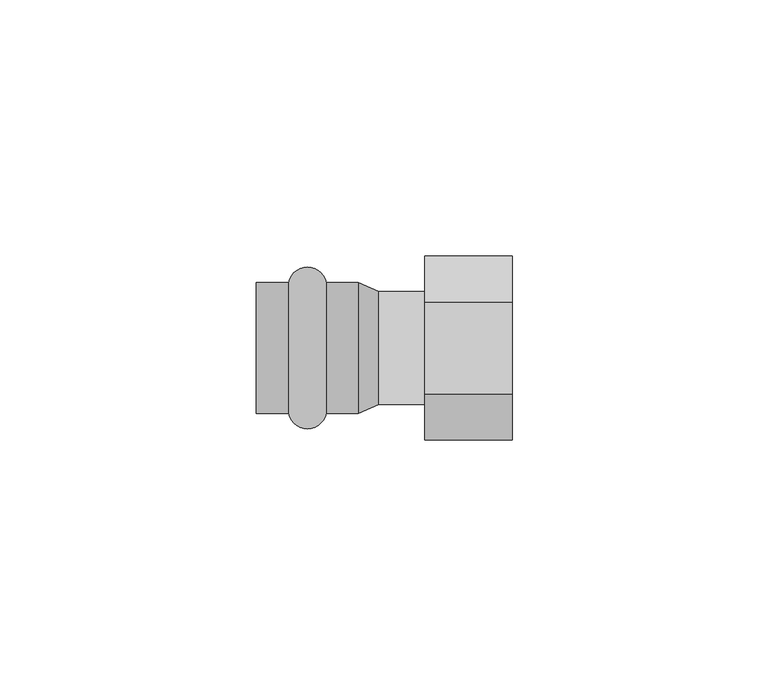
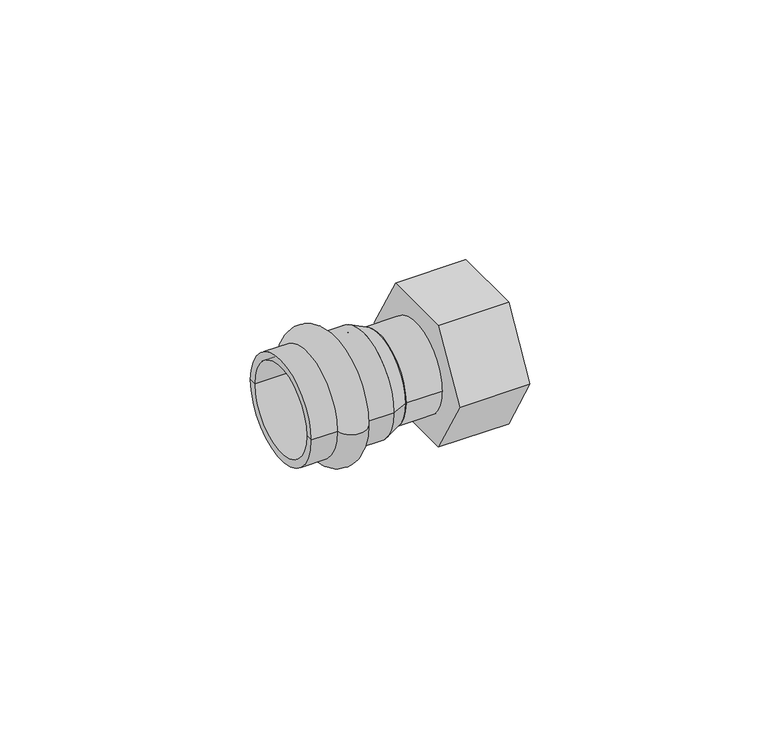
"""IFC4 building model written with IfcOpenShell, lengths in millimetres: pipe fitting geometry, VALTEC_VTi.902.I_Соединитель прямой с переходом на внутреннюю резьбу_Нержавеющая сталь : VTi.902.I."""

import ifcopenshell
import ifcopenshell.guid

model = None  # the IFC model being written
_history = None  # IfcOwnerHistory: only IFC2X3 demands one
_inside = {}  # id of a spatial element -> (the spatial element, [elements in it])
_under = {}  # id of a project, library or spatial element -> (it, [spatial elements below it])
_declared = {}  # id of a project -> (the project, [libraries it declares])
_typed = {}  # id of a type object -> (the type object, [elements of that type])
_made_of = {}  # id of a material, layer set ... -> (it, [elements and type objects made of it])


def new_model(schema):
    """Start an empty IFC model of exactly this schema.

    Asked for "IFC4X3", IfcOpenShell would pick the latest addendum, in which some entities
    have other attributes; the version numbers below select the first issue.
    IFC2X3 requires an IfcOwnerHistory on every rooted entity: one is made here for all.
    """
    global model, _history
    if schema == "IFC4X3":
        model = ifcopenshell.file(schema_version=(4, 3, 0, 0))
    else:
        model = ifcopenshell.file(schema=schema)
    _inside.clear()
    _under.clear()
    _declared.clear()
    _typed.clear()
    _made_of.clear()
    _history = None
    if model.schema == "IFC2X3":
        org = make("IfcOrganization", Name="unknown")
        user = make(
            "IfcPersonAndOrganization",
            ThePerson=make("IfcPerson", FamilyName="unknown"),
            TheOrganization=org,
        )
        app = make(
            "IfcApplication",
            ApplicationDeveloper=org,
            Version="unknown",
            ApplicationFullName="unknown",
            ApplicationIdentifier="unknown",
        )
        _history = make(
            "IfcOwnerHistory",
            OwningUser=user,
            OwningApplication=app,
            ChangeAction="ADDED",
            CreationDate=0,
        )
    return model


def make(cls, **values):
    """One entity of the class cls with the attributes given. An attribute that is None is left unset."""
    return model.create_entity(
        cls, **{name: value for name, value in values.items() if value is not None}
    )


def rooted(cls, **values):
    """An entity with a GlobalId (a new one), such as an element, a storey or a relation."""
    return make(cls, GlobalId=ifcopenshell.guid.new(), OwnerHistory=_history, **values)


def si_unit(unit_type, name, prefix=None):
    """IfcSIUnit, for example si_unit("LENGTHUNIT", "METRE", prefix="MILLI")."""
    return make("IfcSIUnit", UnitType=unit_type, Prefix=prefix, Name=name)


def assignment(units):
    """IfcUnitAssignment: the units of a project."""
    return None if units is None else make("IfcUnitAssignment", Units=units)


def point(xyz):
    """IfcCartesianPoint."""
    return None if xyz is None else make("IfcCartesianPoint", Coordinates=xyz)


def direction(xyz):
    """IfcDirection."""
    return None if xyz is None else make("IfcDirection", DirectionRatios=xyz)


def frame(location, z_axis=None, x_axis=None):
    """IfcAxis2Placement3D, a coordinate frame: its origin and axes. An axis left out is left unset."""
    return make(
        "IfcAxis2Placement3D",
        Location=point(location),
        Axis=direction(z_axis),
        RefDirection=direction(x_axis),
    )


def frame_2d(location, x_axis=None):
    """IfcAxis2Placement2D, a coordinate frame in the plane: its origin and x axis."""
    return make(
        "IfcAxis2Placement2D", Location=point(location), RefDirection=direction(x_axis)
    )


def origin():
    """The frame at (0, 0, 0) with its axes left unset."""
    return frame((0.0, 0.0, 0.0))


def origin_2d():
    """The frame at (0, 0) in the plane with its x axis left unset."""
    return frame_2d((0.0, 0.0))


def place(relative_to, where):
    """IfcLocalPlacement: puts the frame where relative to a parent placement (None: the world)."""
    return make(
        "IfcLocalPlacement", PlacementRelTo=relative_to, RelativePlacement=where
    )


def context(
    kind, dimensions, precision=None, world=None, true_north=None, identifier=None
):
    """IfcGeometricRepresentationContext, for example the 3D "Model" context."""
    return make(
        "IfcGeometricRepresentationContext",
        ContextIdentifier=identifier,
        ContextType=kind,
        CoordinateSpaceDimension=dimensions,
        Precision=precision,
        WorldCoordinateSystem=world,
        TrueNorth=true_north,
    )


def project(units=None, contexts=None):
    """IfcProject with its units and contexts."""
    return rooted(
        "IfcProject",
        Name="project",
        RepresentationContexts=contexts,
        UnitsInContext=assignment(units),
    )


def spatial(cls, under=None, at=None, **own):
    """A site, building, storey or space (cls), placed at a placement, below another one or the project."""
    s = rooted(cls, ObjectPlacement=at, **own)
    if under is not None:
        _under.setdefault(under.id(), (under, []))[1].append(s)
    return s


def polyline(points):
    """IfcPolyline through the points."""
    return make("IfcPolyline", Points=[point(p) for p in points])


def circle_curve(where, radius):
    """IfcCircle in the frame where."""
    return make("IfcCircle", Position=where, Radius=radius)


def ellipse_curve(where, semi_axis1, semi_axis2):
    """IfcEllipse in the frame where."""
    return make(
        "IfcEllipse", Position=where, SemiAxis1=semi_axis1, SemiAxis2=semi_axis2
    )


def trimmed(basis, trim1, trim2, sense, master):
    """IfcTrimmedCurve: the piece of a basis curve between two trims."""
    return make(
        "IfcTrimmedCurve",
        BasisCurve=basis,
        Trim1=trim1,
        Trim2=trim2,
        SenseAgreement=sense,
        MasterRepresentation=master,
    )


def segment(curve, same_sense, transition):
    """IfcCompositeCurveSegment."""
    return make(
        "IfcCompositeCurveSegment",
        Transition=transition,
        SameSense=same_sense,
        ParentCurve=curve,
    )


def composite_curve(segments, self_intersect=None):
    """IfcCompositeCurve: segments joined end to end."""
    return make("IfcCompositeCurve", Segments=segments, SelfIntersect=self_intersect)


def outline(outer, holes=None, kind="AREA"):
    """IfcArbitraryClosedProfileDef: a profile drawn as a closed curve; with holes, ...WithVoids."""
    if holes is None:
        return make("IfcArbitraryClosedProfileDef", ProfileType=kind, OuterCurve=outer)
    return make(
        "IfcArbitraryProfileDefWithVoids",
        ProfileType=kind,
        OuterCurve=outer,
        InnerCurves=holes,
    )


def extrude(swept, where, along, depth):
    """IfcExtrudedAreaSolid: the profile swept, set in the frame where, extruded along a direction by depth."""
    return make(
        "IfcExtrudedAreaSolid",
        SweptArea=swept,
        Position=where,
        ExtrudedDirection=direction(along),
        Depth=depth,
    )


def shape(context_of_items, identifier, shape_type, items):
    """IfcShapeRepresentation: the items that make up one representation, for example the "Body"."""
    return make(
        "IfcShapeRepresentation",
        ContextOfItems=context_of_items,
        RepresentationIdentifier=identifier,
        RepresentationType=shape_type,
        Items=items,
    )


def source(mapping_origin, context_of_items, identifier, shape_type, items):
    """IfcRepresentationMap: a shape defined once, which mapped items show again and again."""
    return make(
        "IfcRepresentationMap",
        MappingOrigin=mapping_origin,
        MappedRepresentation=shape(context_of_items, identifier, shape_type, items),
    )


def transform(
    local_origin,
    x_axis=None,
    y_axis=None,
    z_axis=None,
    scale=None,
    scale2=None,
    scale3=None,
    uniform=True,
):
    """IfcCartesianTransformationOperator3D, or its non-uniform kind. x_axis, y_axis, z_axis: its Axis1, 2, 3."""
    if uniform:
        return make(
            "IfcCartesianTransformationOperator3D",
            Axis1=direction(x_axis),
            Axis2=direction(y_axis),
            LocalOrigin=point(local_origin),
            Scale=scale,
            Axis3=direction(z_axis),
        )
    return make(
        "IfcCartesianTransformationOperator3DnonUniform",
        Axis1=direction(x_axis),
        Axis2=direction(y_axis),
        LocalOrigin=point(local_origin),
        Scale=scale,
        Axis3=direction(z_axis),
        Scale2=scale2,
        Scale3=scale3,
    )


def mapped(mapping_source, mapping_target):
    """IfcMappedItem: shows the shape of a source again, moved by a transform."""
    return make(
        "IfcMappedItem", MappingSource=mapping_source, MappingTarget=mapping_target
    )


def made_of(thing, what):
    """Note that an element or type object is made of a material, layer set ...; save() writes the relation."""
    if what is not None:
        _made_of.setdefault(what.id(), (what, []))[1].append(thing)
    return thing


def element(
    cls,
    number,
    at=None,
    inside=None,
    cuts=None,
    type_object=None,
    material=None,
    context=None,
    identifier="Body",
    shape_type=None,
    held_by="IfcProductDefinitionShape",
    body=None,
    shapes=None,
    **own,
):
    """One element of the class cls, such as IfcWall. Its Tag is "e" and its number.

    at: its placement. inside: the storey or other place that contains it. cuts: it is an
    opening in that element (IfcRelVoidsElement). A single representation is given by context,
    identifier, shape_type and body (its items); several are given by shapes. held_by: the class
    of the entity that holds the representations. save() writes the other relations.
    """
    e = rooted(cls, Tag="e%d" % number, ObjectPlacement=at, **own)
    if body is not None:
        shapes = [shape(context, identifier, shape_type, body)]
    if shapes is not None:
        e.Representation = make(held_by, Representations=shapes)
    if inside is not None:
        _inside.setdefault(inside.id(), (inside, []))[1].append(e)
    if cuts is not None:
        rooted(
            "IfcRelVoidsElement", RelatingBuildingElement=cuts, RelatedOpeningElement=e
        )
    if type_object is not None:
        _typed.setdefault(type_object.id(), (type_object, []))[1].append(e)
    return made_of(e, material)


def aggregate(whole, parts):
    """IfcRelAggregates: a whole, such as a stair, and the parts it consists of."""
    return rooted("IfcRelAggregates", RelatingObject=whole, RelatedObjects=parts)


def save(model, path):
    """Write the relations noted so far, then the file.

    IfcRelAggregates (storeys below a building ...), IfcRelContainedInSpatialStructure (elements
    in a storey), IfcRelDefinesByType, IfcRelAssociatesMaterial and IfcRelDeclares: one each for
    every whole, place, type object, material and project.
    """
    for whole, parts in _under.values():
        aggregate(whole, parts)
    for where, things in _inside.values():
        rooted(
            "IfcRelContainedInSpatialStructure",
            RelatedElements=things,
            RelatingStructure=where,
        )
    for kind, things in _typed.values():
        rooted("IfcRelDefinesByType", RelatedObjects=things, RelatingType=kind)
    for what, things in _made_of.values():
        rooted("IfcRelAssociatesMaterial", RelatedObjects=things, RelatingMaterial=what)
    for by, libraries in _declared.values():
        rooted("IfcRelDeclares", RelatingContext=by, RelatedDefinitions=libraries)
    model.write(path)


def plane_surface(at):
    """IfcPlane: the flat surface through the origin of the frame at, square to its z axis."""
    return make("IfcPlane", Position=at)


def cylinder_surface(at, radius):
    """IfcCylindricalSurface: all points at the distance radius from the z axis of the frame at."""
    return make("IfcCylindricalSurface", Position=at, Radius=radius)


def revolved_surface(curve, axis_point, axis_direction):
    """IfcSurfaceOfRevolution: the curve turned about the line through axis_point along axis_direction."""
    return make(
        "IfcSurfaceOfRevolution",
        SweptCurve=make("IfcArbitraryOpenProfileDef", ProfileType="CURVE", Curve=curve),
        AxisPosition=make("IfcAxis1Placement", Location=point(axis_point), Axis=direction(axis_direction)),
    )


def advanced_brep(points, edges, surfaces, faces):
    """IfcAdvancedBrep: a solid bounded by faces that lie on surfaces and meet in shared edges.

    An edge is (start, end): straight between two places in points (the first is 0);
    or (start, end, curve); or (start, end, curve, False) where it runs against its curve.
    A face is (place in surfaces, loops), or (place, loops, False) where it looks against
    its surface's normal. A loop lists edges by number (the first is 1), with a minus sign
    where the edge is run from its end to its start. The first loop is the outer one.
    """
    corners = [point(p) for p in points]
    vertices = [make("IfcVertexPoint", VertexGeometry=c) for c in corners]
    made = []
    for start, end, *more in edges:
        made.append(
            make(
                "IfcEdgeCurve",
                EdgeStart=vertices[start],
                EdgeEnd=vertices[end],
                EdgeGeometry=more[0] if more else make("IfcPolyline", Points=[corners[start], corners[end]]),
                SameSense=more[1] if len(more) > 1 else True,
            )
        )
    hull = []
    for where, loops, *sense in faces:
        bounds = []
        for j, loop in enumerate(loops):
            ring = [make("IfcOrientedEdge", EdgeElement=made[abs(k) - 1], Orientation=k > 0) for k in loop]
            bounds.append(
                make(
                    "IfcFaceOuterBound" if j == 0 else "IfcFaceBound",
                    Bound=make("IfcEdgeLoop", EdgeList=ring),
                    Orientation=True,
                )
            )
        hull.append(make("IfcAdvancedFace", Bounds=bounds, FaceSurface=surfaces[where], SameSense=sense[0] if sense else True))
    return make("IfcAdvancedBrep", Outer=make("IfcClosedShell", CfsFaces=hull))


def pipe_fitting_b058bb6a(model_context):
    return source(origin(), model_context, "Body", "SolidModel", [
        advanced_brep(
        [(-35.1242346, -12.8, 0.0), (-35.1242346, 12.8, 0.0), (-27.7757654, 12.8, 0.0), (-27.7757654, -12.8, 0.0), (-41.5, -12.8, 0.0), (-41.5, 12.8, 0.0), (-41.5, -11.0, 0.0), (-41.5, 11.0, 0.0), (-21.5, -11.0, 0.0), (-21.5, 11.0, 0.0), (-21.5, -12.8, 0.0), (-21.5, 12.8, 0.0)],
        [
            (0, 1, circle_curve(frame((-35.1242346, 0.0, 0.0), z_axis=(1.0, 0.0, 0.0), x_axis=(0.0, 1.0, 0.0)), 12.8)),
            (1, 2, circle_curve(frame((-31.45, 12.05, 0.0), z_axis=(0.0, 0.0, -1.0), x_axis=(1.0, 0.0, 0.0)), 3.75)),
            (2, 3, circle_curve(frame((-27.7757654, 0.0, 0.0), z_axis=(-1.0, 0.0, 0.0), x_axis=(0.0, 1.0, 0.0)), 12.8)),
            (3, 0, circle_curve(frame((-31.45, -12.05, 0.0), z_axis=(0.0, 0.0, -1.0), x_axis=(1.0, 0.0, 0.0)), 3.75)),
            (1, 0, circle_curve(frame((-35.1242346, 0.0, 0.0), z_axis=(1.0, 0.0, 0.0), x_axis=(0.0, 1.0, 0.0)), 12.8)),
            (3, 2, circle_curve(frame((-27.7757654, 0.0, 0.0), z_axis=(-1.0, 0.0, 0.0), x_axis=(0.0, 1.0, 0.0)), 12.8)),
            (4, 5, circle_curve(frame((-41.5, 0.0, 0.0), z_axis=(1.0, 0.0, 0.0), x_axis=(0.0, 1.0, 0.0)), 12.8)),
            (5, 1),
            (0, 4),
            (5, 4, circle_curve(frame((-41.5, 0.0, 0.0), z_axis=(1.0, 0.0, 0.0), x_axis=(0.0, 1.0, 0.0)), 12.8)),
            (6, 7, circle_curve(frame((-41.5, 0.0, 0.0), z_axis=(1.0, 0.0, 0.0), x_axis=(0.0, 1.0, 0.0)), 11.0)),
            (7, 5),
            (4, 6),
            (7, 6, circle_curve(frame((-41.5, 0.0, 0.0), z_axis=(1.0, 0.0, 0.0), x_axis=(0.0, 1.0, 0.0)), 11.0)),
            (8, 9, circle_curve(frame((-21.5, 0.0, 0.0), z_axis=(1.0, 0.0, 0.0), x_axis=(0.0, 1.0, 0.0)), 11.0)),
            (9, 7),
            (6, 8),
            (9, 8, circle_curve(frame((-21.5, 0.0, 0.0), z_axis=(1.0, 0.0, 0.0), x_axis=(0.0, 1.0, 0.0)), 11.0)),
            (10, 11, circle_curve(frame((-21.5, 0.0, 0.0), z_axis=(1.0, 0.0, 0.0), x_axis=(0.0, 1.0, 0.0)), 12.8)),
            (11, 9),
            (8, 10),
            (11, 10, circle_curve(frame((-21.5, 0.0, 0.0), z_axis=(1.0, 0.0, 0.0), x_axis=(0.0, 1.0, 0.0)), 12.8)),
            (2, 11),
            (10, 3),
        ],
        [
            revolved_surface(trimmed(ellipse_curve(frame((-31.45, 12.05, 0.0), z_axis=(0.0, 0.0, 1.0), x_axis=(1.0, 0.0, 0.0)), 3.75, 3.75), [point((-27.7757654, 12.8, 0.0))], [point((-35.1242346, 12.8, 0.0))], True, "CARTESIAN"), (-45.0364426, 0.0, 0.0), (-1.0, 0.0, 0.0)),
            cylinder_surface(frame((-45.0364426, 0.0, 0.0), z_axis=(-1.0, 0.0, 0.0), x_axis=(0.0, 1.0, 0.0)), 12.8),
            plane_surface(frame((-41.5, 0.0, 0.0), z_axis=(-1.0, 0.0, 0.0), x_axis=(0.0, 1.0, 0.0))),
            revolved_surface(polyline([(-41.5, 11.0, 0.0), (-21.5, 11.0, 0.0)]), (-45.0364426, 0.0, 0.0), (-1.0, 0.0, 0.0)),
            plane_surface(frame((-21.5, 0.0, 0.0), z_axis=(1.0, 0.0, 0.0), x_axis=(0.0, 1.0, 0.0))),
        ],
        [
            (0, [[1, 2, 3, 4]]),
            (0, [[5, -4, 6, -2]]),
            (1, [[7, 8, -1, 9]]),
            (1, [[10, -9, -5, -8]]),
            (2, [[11, 12, -7, 13]]),
            (2, [[14, -13, -10, -12]]),
            (3, [[15, 16, -11, 17]]),
            (3, [[18, -17, -14, -16]]),
            (4, [[19, 20, -15, 21]]),
            (4, [[22, -21, -18, -20]]),
            (1, [[-3, 23, -19, 24]]),
            (1, [[-6, -24, -22, -23]]),
        ],
    ),
        extrude(outline(polyline([(-18.0017814, 0.0), (-9.0008907, 15.59), (9.0008907, 15.59), (18.0017814, 0.0), (9.0008907, -15.59), (-9.0008907, -15.59), (-18.0017814, 0.0)])), frame((-8.5, 0.0, 0.0), z_axis=(1.0, 0.0, 0.0), x_axis=(0.0, 1.0, 0.0)), (0.0, 0.0, 1.0), 17.0),
        extrude(outline(composite_curve([segment(trimmed(circle_curve(origin_2d(), 11.0), [point((-11.0, 0.0))], [point((11.0, 0.0))], False, "CARTESIAN"), True, "CONTINUOUS"), segment(trimmed(circle_curve(origin_2d(), 11.0), [point((11.0, 0.0))], [point((-11.0, 0.0))], False, "CARTESIAN"), True, "CONTINUOUS")], self_intersect=False)), frame((-17.5, 0.0, 0.0), z_axis=(1.0, 0.0, 0.0), x_axis=(0.0, 1.0, 0.0)), (0.0, 0.0, 1.0), 9.0),
        advanced_brep(
        [(-17.5, -11.0, 0.0), (-17.5, 11.0, 0.0), (-21.5, -12.8, 0.0), (-21.5, 12.8, 0.0)],
        [
            (0, 1, circle_curve(frame((-17.5, 0.0, 0.0), z_axis=(1.0, 0.0, 0.0), x_axis=(0.0, -1.0, 0.0)), 11.0)),
            (1, 0, circle_curve(frame((-17.5, 0.0, 0.0), z_axis=(1.0, 0.0, 0.0), x_axis=(0.0, 1.0, 0.0)), 11.0)),
            (2, 3, circle_curve(frame((-21.5, 0.0, 0.0), z_axis=(-1.0, 0.0, 0.0), x_axis=(0.0, 1.0, 0.0)), 12.8)),
            (3, 2, circle_curve(frame((-21.5, 0.0, 0.0), z_axis=(-1.0, 0.0, 0.0), x_axis=(0.0, -1.0, 0.0)), 12.8)),
            (3, 1),
            (0, 2),
        ],
        [
            plane_surface(frame((-17.5, 0.0, 0.0), z_axis=(1.0, 0.0, 0.0), x_axis=(0.0, 0.0, -1.0))),
            plane_surface(frame((-21.5, 0.0, 0.0), z_axis=(-1.0, 0.0, 0.0), x_axis=(0.0, 0.0, -1.0))),
            revolved_surface(polyline([(-17.5, -10.999999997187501, 0.0), (-21.5, -12.8, 0.0)]), (6.9444444, 0.0, 0.0), (-1.0, 0.0, 0.0)),
            revolved_surface(polyline([(-17.5, 10.999999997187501, 0.0), (-21.5, 12.8, 0.0)]), (6.9444444, 0.0, 0.0), (-1.0, 0.0, 0.0)),
        ],
        [
            (0, [[1, 2]]),
            (1, [[3, 4]]),
            (2, [[-4, 5, -1, 6]]),
            (3, [[-3, -6, -2, -5]]),
        ],
    ),
    ])


if __name__ == "__main__":
    model = new_model("IFC4")
    model_context = context("Model", 3, world=origin())
    ifc_project = project(units=[si_unit("LENGTHUNIT", "METRE", prefix="MILLI")], contexts=[model_context])
    site = spatial("IfcSite", under=ifc_project)
    building = spatial("IfcBuilding", under=site)
    placement = place(None, origin())
    pipe_fitting_shape = pipe_fitting_b058bb6a(model_context)
    element("IfcPipeFitting", 1, ObjectType="VALTEC_VTi.902.I_Соединитель прямой с переходом на внутреннюю резьбу_Нержавеющая сталь : VTi.902.I", at=placement, inside=building, context=model_context, shape_type="MappedRepresentation", body=[
        mapped(pipe_fitting_shape, transform((0.0, 0.0, 0.0), x_axis=(1.0, 0.0, 0.0), y_axis=(0.0, 1.0, 0.0), z_axis=(0.0, 0.0, 1.0))),
    ])
    save(model, "model.ifc")
